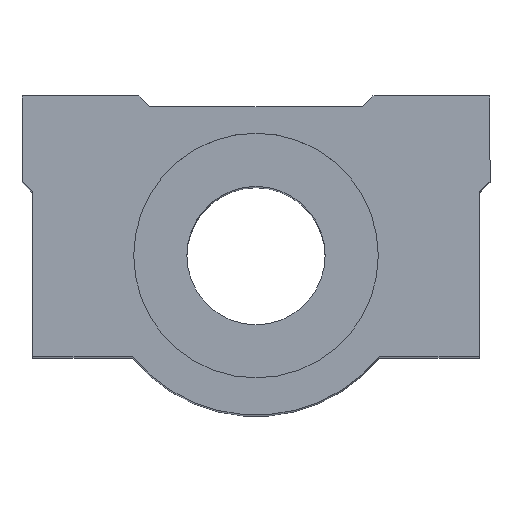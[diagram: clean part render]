
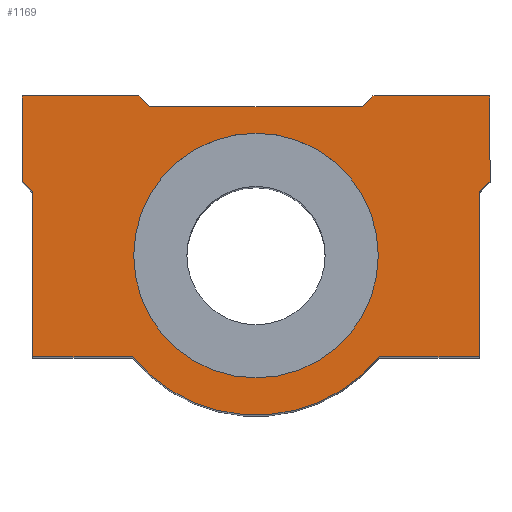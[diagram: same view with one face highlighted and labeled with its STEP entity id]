
A CAD part, top view. The second image highlights one B-rep face of the part: STEP entity #1169.
In plain terms, the highlighted planar face has unit normal (0, 0, 1).
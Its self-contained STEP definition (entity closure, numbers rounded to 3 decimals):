
#91=CARTESIAN_POINT('',(-12.209,4.198,75.0));
#92=VERTEX_POINT('',#91);
#101=CARTESIAN_POINT('',(10.791,4.198,75.0));
#102=VERTEX_POINT('',#101);
#103=CARTESIAN_POINT('',(-0.709,4.198,75.));
#104=DIRECTION('',(0.0,0.0,-1.0));
#105=DIRECTION('',(-1.0,0.0,0.0));
#106=AXIS2_PLACEMENT_3D('',#103,#104,#105);
#107=CIRCLE('',#106,11.5);
#108=EDGE_CURVE('',#102,#92,#107,.T.);
#640=CARTESIAN_POINT('',(-0.709,4.198,75.));
#641=DIRECTION('',(0.0,0.0,-1.0));
#642=DIRECTION('',(-1.0,0.0,0.0));
#643=AXIS2_PLACEMENT_3D('',#640,#641,#642);
#644=CIRCLE('',#643,11.5);
#645=EDGE_CURVE('',#92,#102,#644,.T.);
#780=CARTESIAN_POINT('',(21.291,11.198,75.));
#781=VERTEX_POINT('',#780);
#782=CARTESIAN_POINT('',(20.291,10.198,75.));
#783=VERTEX_POINT('',#782);
#784=CARTESIAN_POINT('',(21.291,11.198,75.));
#785=DIRECTION('',(-0.707,-0.707,0.0));
#786=VECTOR('',#785,1.414);
#787=LINE('',#784,#786);
#788=EDGE_CURVE('',#781,#783,#787,.T.);
#811=CARTESIAN_POINT('',(20.291,-5.302,75.));
#812=VERTEX_POINT('',#811);
#813=CARTESIAN_POINT('',(20.291,10.198,75.));
#814=DIRECTION('',(0.0,-1.0,0.0));
#815=VECTOR('',#814,15.5);
#816=LINE('',#813,#815);
#817=EDGE_CURVE('',#783,#812,#816,.T.);
#835=CARTESIAN_POINT('',(10.899,-5.302,75.));
#836=VERTEX_POINT('',#835);
#837=CARTESIAN_POINT('',(20.291,-5.302,75.));
#838=DIRECTION('',(-1.0,0.0,0.0));
#839=VECTOR('',#838,9.392);
#840=LINE('',#837,#839);
#841=EDGE_CURVE('',#812,#836,#840,.T.);
#867=CARTESIAN_POINT('',(-12.317,-5.302,75.));
#868=VERTEX_POINT('',#867);
#869=CARTESIAN_POINT('',(-0.709,4.198,75.0));
#870=DIRECTION('',(0.0,0.0,-1.0));
#871=DIRECTION('',(0.774,0.633,0.0));
#872=AXIS2_PLACEMENT_3D('',#869,#870,#871);
#873=CIRCLE('',#872,15.);
#874=EDGE_CURVE('',#836,#868,#873,.T.);
#892=CARTESIAN_POINT('',(-21.709,-5.302,75.));
#893=VERTEX_POINT('',#892);
#894=CARTESIAN_POINT('',(-12.317,-5.302,75.));
#895=DIRECTION('',(-1.0,0.0,0.0));
#896=VECTOR('',#895,9.392);
#897=LINE('',#894,#896);
#898=EDGE_CURVE('',#868,#893,#897,.T.);
#924=CARTESIAN_POINT('',(-21.709,10.198,75.));
#925=VERTEX_POINT('',#924);
#926=CARTESIAN_POINT('',(-21.709,-5.302,75.));
#927=DIRECTION('',(0.0,1.0,0.0));
#928=VECTOR('',#927,15.5);
#929=LINE('',#926,#928);
#930=EDGE_CURVE('',#893,#925,#929,.T.);
#948=CARTESIAN_POINT('',(-22.709,11.198,75.));
#949=VERTEX_POINT('',#948);
#950=CARTESIAN_POINT('',(-21.709,10.198,75.));
#951=DIRECTION('',(-0.707,0.707,0.0));
#952=VECTOR('',#951,1.414);
#953=LINE('',#950,#952);
#954=EDGE_CURVE('',#925,#949,#953,.T.);
#972=CARTESIAN_POINT('',(-22.709,19.198,75.));
#973=VERTEX_POINT('',#972);
#974=CARTESIAN_POINT('',(-22.709,11.198,75.));
#975=DIRECTION('',(0.0,1.0,0.0));
#976=VECTOR('',#975,8.);
#977=LINE('',#974,#976);
#978=EDGE_CURVE('',#949,#973,#977,.T.);
#996=CARTESIAN_POINT('',(-11.709,19.198,75.));
#997=VERTEX_POINT('',#996);
#998=CARTESIAN_POINT('',(-22.709,19.198,75.));
#999=DIRECTION('',(1.0,0.0,0.0));
#1000=VECTOR('',#999,11.0);
#1001=LINE('',#998,#1000);
#1002=EDGE_CURVE('',#973,#997,#1001,.T.);
#1028=CARTESIAN_POINT('',(-10.709,18.198,75.));
#1029=VERTEX_POINT('',#1028);
#1030=CARTESIAN_POINT('',(-11.709,19.198,75.));
#1031=DIRECTION('',(0.707,-0.707,0.0));
#1032=VECTOR('',#1031,1.414);
#1033=LINE('',#1030,#1032);
#1034=EDGE_CURVE('',#997,#1029,#1033,.T.);
#1052=CARTESIAN_POINT('',(9.291,18.198,75.));
#1053=VERTEX_POINT('',#1052);
#1054=CARTESIAN_POINT('',(-10.709,18.198,75.));
#1055=DIRECTION('',(1.0,0.0,0.0));
#1056=VECTOR('',#1055,20.0);
#1057=LINE('',#1054,#1056);
#1058=EDGE_CURVE('',#1029,#1053,#1057,.T.);
#1076=CARTESIAN_POINT('',(10.291,19.198,75.));
#1077=VERTEX_POINT('',#1076);
#1078=CARTESIAN_POINT('',(9.291,18.198,75.));
#1079=DIRECTION('',(0.707,0.707,0.0));
#1080=VECTOR('',#1079,1.414);
#1081=LINE('',#1078,#1080);
#1082=EDGE_CURVE('',#1053,#1077,#1081,.T.);
#1100=CARTESIAN_POINT('',(21.291,19.198,75.));
#1101=VERTEX_POINT('',#1100);
#1102=CARTESIAN_POINT('',(10.291,19.198,75.));
#1103=DIRECTION('',(1.0,0.0,0.0));
#1104=VECTOR('',#1103,11.);
#1105=LINE('',#1102,#1104);
#1106=EDGE_CURVE('',#1077,#1101,#1105,.T.);
#1132=CARTESIAN_POINT('',(21.291,19.198,75.));
#1133=DIRECTION('',(0.0,-1.0,0.0));
#1134=VECTOR('',#1133,8.);
#1135=LINE('',#1132,#1134);
#1136=EDGE_CURVE('',#1101,#781,#1135,.T.);
#1144=CARTESIAN_POINT('',(-0.709,6.156,75.));
#1145=DIRECTION('',(0.0,0.0,1.0));
#1146=DIRECTION('',(1.0,0.0,0.0));
#1147=AXIS2_PLACEMENT_3D('',#1144,#1145,#1146);
#1148=PLANE('',#1147);
#1149=ORIENTED_EDGE('',*,*,#788,.F.);
#1150=ORIENTED_EDGE('',*,*,#1136,.F.);
#1151=ORIENTED_EDGE('',*,*,#1106,.F.);
#1152=ORIENTED_EDGE('',*,*,#1082,.F.);
#1153=ORIENTED_EDGE('',*,*,#1058,.F.);
#1154=ORIENTED_EDGE('',*,*,#1034,.F.);
#1155=ORIENTED_EDGE('',*,*,#1002,.F.);
#1156=ORIENTED_EDGE('',*,*,#978,.F.);
#1157=ORIENTED_EDGE('',*,*,#954,.F.);
#1158=ORIENTED_EDGE('',*,*,#930,.F.);
#1159=ORIENTED_EDGE('',*,*,#898,.F.);
#1160=ORIENTED_EDGE('',*,*,#874,.F.);
#1161=ORIENTED_EDGE('',*,*,#841,.F.);
#1162=ORIENTED_EDGE('',*,*,#817,.F.);
#1163=EDGE_LOOP('',(#1149,#1150,#1151,#1152,#1153,#1154,#1155,#1156,#1157,#1158,#1159,#1160,#1161,#1162));
#1164=FACE_OUTER_BOUND('',#1163,.T.);
#1165=ORIENTED_EDGE('',*,*,#108,.T.);
#1166=ORIENTED_EDGE('',*,*,#645,.T.);
#1167=EDGE_LOOP('',(#1165,#1166));
#1168=FACE_BOUND('',#1167,.T.);
#1169=ADVANCED_FACE('',(#1164,#1168),#1148,.T.);
